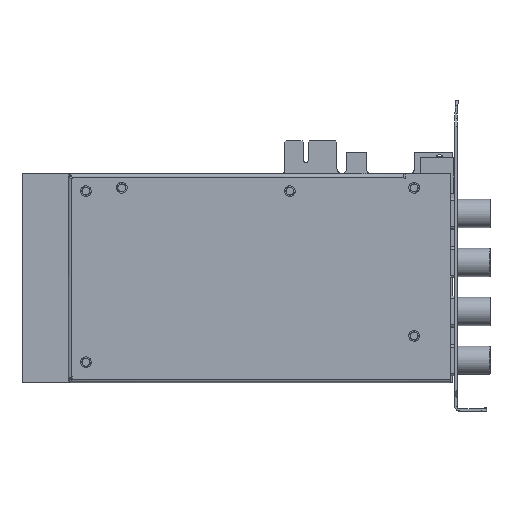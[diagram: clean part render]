
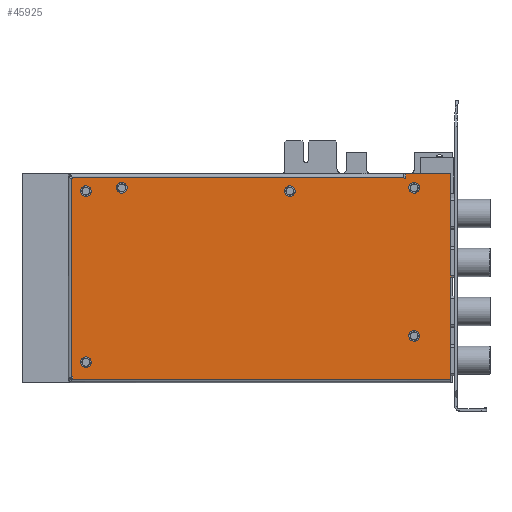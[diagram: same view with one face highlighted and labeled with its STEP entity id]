
A CAD part, top view. The second image highlights one B-rep face of the part: STEP entity #45925.
In plain terms, the highlighted planar face has unit normal (0, 0, 1).
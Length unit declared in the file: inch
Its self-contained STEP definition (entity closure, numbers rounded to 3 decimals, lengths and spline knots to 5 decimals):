
#39301=DIRECTION('',(-1.,0.,0.));
#39302=VECTOR('',#39301,5.075);
#39303=CARTESIAN_POINT('',(-0.75053,-0.3815,0.551));
#39304=LINE('',#39303,#39302);
#39414=DIRECTION('',(0.,-1.,0.));
#39415=VECTOR('',#39414,3.04);
#39416=CARTESIAN_POINT('',(-5.84447,-0.4015,0.551));
#39417=LINE('',#39416,#39415);
#39418=DIRECTION('',(-1.,0.,0.));
#39419=VECTOR('',#39418,0.01894);
#39420=CARTESIAN_POINT('',(-5.82553,-0.4015,0.551));
#39421=LINE('',#39420,#39419);
#39422=DIRECTION('',(0.,-1.,0.));
#39423=VECTOR('',#39422,0.02);
#39424=CARTESIAN_POINT('',(-5.82553,-0.3815,0.551));
#39425=LINE('',#39424,#39423);
#39426=CARTESIAN_POINT('',(-0.73303,-0.3815,0.551));
#39427=DIRECTION('',(0.,0.,-1.));
#39428=DIRECTION('',(1.,0.,0.));
#39429=AXIS2_PLACEMENT_3D('',#39426,#39427,#39428);
#39431=DIRECTION('',(0.,-1.,0.));
#39432=VECTOR('',#39431,0.05);
#39433=CARTESIAN_POINT('',(-0.71553,-0.3315,0.551));
#39434=LINE('',#39433,#39432);
#39435=DIRECTION('',(-1.,0.,0.));
#39436=VECTOR('',#39435,0.69);
#39437=CARTESIAN_POINT('',(-0.02553,-0.3315,0.551));
#39438=LINE('',#39437,#39436);
#39439=DIRECTION('',(0.,1.,0.));
#39440=VECTOR('',#39439,3.07);
#39441=CARTESIAN_POINT('',(-0.02553,-3.4015,0.551));
#39442=LINE('',#39441,#39440);
#39443=DIRECTION('',(0.,1.,0.));
#39444=VECTOR('',#39443,0.07947);
#39445=CARTESIAN_POINT('',(-0.02553,-3.48097,0.551));
#39446=LINE('',#39445,#39444);
#39447=DIRECTION('',(1.,0.,0.));
#39448=VECTOR('',#39447,5.8);
#39449=CARTESIAN_POINT('',(-5.82553,-3.48097,0.551));
#39450=LINE('',#39449,#39448);
#39451=DIRECTION('',(0.,-1.,0.));
#39452=VECTOR('',#39451,0.03947);
#39453=CARTESIAN_POINT('',(-5.82553,-3.4415,0.551));
#39454=LINE('',#39453,#39452);
#39455=DIRECTION('',(1.,0.,0.));
#39456=VECTOR('',#39455,0.01894);
#39457=CARTESIAN_POINT('',(-5.84447,-3.4415,0.551));
#39458=LINE('',#39457,#39456);
#39459=CARTESIAN_POINT('',(-5.62,-3.21756,0.551));
#39460=DIRECTION('',(0.,0.,1.));
#39461=DIRECTION('',(0.,1.,0.));
#39462=AXIS2_PLACEMENT_3D('',#39459,#39460,#39461);
#39464=CARTESIAN_POINT('',(-5.62,-3.21756,0.551));
#39465=DIRECTION('',(0.,0.,1.));
#39466=DIRECTION('',(0.,-1.,0.));
#39467=AXIS2_PLACEMENT_3D('',#39464,#39465,#39466);
#39469=CARTESIAN_POINT('',(-0.59,-2.815,0.551));
#39470=DIRECTION('',(0.,0.,1.));
#39471=DIRECTION('',(0.,1.,0.));
#39472=AXIS2_PLACEMENT_3D('',#39469,#39470,#39471);
#39474=CARTESIAN_POINT('',(-0.59,-2.815,0.551));
#39475=DIRECTION('',(0.,0.,1.));
#39476=DIRECTION('',(0.,-1.,0.));
#39477=AXIS2_PLACEMENT_3D('',#39474,#39475,#39476);
#39479=CARTESIAN_POINT('',(-0.59,-0.5455,0.551));
#39480=DIRECTION('',(0.,0.,1.));
#39481=DIRECTION('',(0.,1.,0.));
#39482=AXIS2_PLACEMENT_3D('',#39479,#39480,#39481);
#39484=CARTESIAN_POINT('',(-0.59,-0.5455,0.551));
#39485=DIRECTION('',(0.,0.,1.));
#39486=DIRECTION('',(0.,-1.,0.));
#39487=AXIS2_PLACEMENT_3D('',#39484,#39485,#39486);
#39489=CARTESIAN_POINT('',(-5.07,-0.5455,0.551));
#39490=DIRECTION('',(0.,0.,1.));
#39491=DIRECTION('',(0.,1.,0.));
#39492=AXIS2_PLACEMENT_3D('',#39489,#39490,#39491);
#39494=CARTESIAN_POINT('',(-5.07,-0.5455,0.551));
#39495=DIRECTION('',(0.,0.,1.));
#39496=DIRECTION('',(0.,-1.,0.));
#39497=AXIS2_PLACEMENT_3D('',#39494,#39495,#39496);
#39499=CARTESIAN_POINT('',(-2.49447,-0.5965,0.551));
#39500=DIRECTION('',(0.,0.,1.));
#39501=DIRECTION('',(0.,1.,0.));
#39502=AXIS2_PLACEMENT_3D('',#39499,#39500,#39501);
#39504=CARTESIAN_POINT('',(-2.49447,-0.5965,0.551));
#39505=DIRECTION('',(0.,0.,1.));
#39506=DIRECTION('',(0.,-1.,0.));
#39507=AXIS2_PLACEMENT_3D('',#39504,#39505,#39506);
#39509=CARTESIAN_POINT('',(-5.62047,-0.5965,0.551));
#39510=DIRECTION('',(0.,0.,1.));
#39511=DIRECTION('',(0.,1.,0.));
#39512=AXIS2_PLACEMENT_3D('',#39509,#39510,#39511);
#39514=CARTESIAN_POINT('',(-5.62047,-0.5965,0.551));
#39515=DIRECTION('',(0.,0.,1.));
#39516=DIRECTION('',(0.,-1.,0.));
#39517=AXIS2_PLACEMENT_3D('',#39514,#39515,#39516);
#43554=CARTESIAN_POINT('',(-0.02553,-3.4015,0.551));
#43556=VERTEX_POINT('',#43554);
#43562=CARTESIAN_POINT('',(-5.82553,-3.4415,0.551));
#43564=VERTEX_POINT('',#43562);
#43566=CARTESIAN_POINT('',(-0.02553,-3.48097,0.551));
#43567=VERTEX_POINT('',#43566);
#43574=CARTESIAN_POINT('',(-0.02553,-0.3315,0.551));
#43575=VERTEX_POINT('',#43574);
#43586=CARTESIAN_POINT('',(-5.82553,-3.48097,0.551));
#43588=VERTEX_POINT('',#43586);
#43595=CARTESIAN_POINT('',(-5.84447,-3.4415,0.551));
#43597=VERTEX_POINT('',#43595);
#44008=CARTESIAN_POINT('',(-5.62,-3.13506,0.551));
#44009=CARTESIAN_POINT('',(-5.62,-3.30006,0.551));
#44010=VERTEX_POINT('',#44008);
#44011=VERTEX_POINT('',#44009);
#44012=CARTESIAN_POINT('',(-0.59,-2.7325,0.551));
#44013=CARTESIAN_POINT('',(-0.59,-2.8975,0.551));
#44014=VERTEX_POINT('',#44012);
#44015=VERTEX_POINT('',#44013);
#44016=CARTESIAN_POINT('',(-0.59,-0.463,0.551));
#44017=CARTESIAN_POINT('',(-0.59,-0.628,0.551));
#44018=VERTEX_POINT('',#44016);
#44019=VERTEX_POINT('',#44017);
#44020=CARTESIAN_POINT('',(-5.07,-0.463,0.551));
#44021=CARTESIAN_POINT('',(-5.07,-0.628,0.551));
#44022=VERTEX_POINT('',#44020);
#44023=VERTEX_POINT('',#44021);
#44044=CARTESIAN_POINT('',(-2.49447,-0.514,0.551));
#44045=CARTESIAN_POINT('',(-2.49447,-0.679,0.551));
#44046=VERTEX_POINT('',#44044);
#44047=VERTEX_POINT('',#44045);
#44056=CARTESIAN_POINT('',(-0.71553,-0.3815,0.551));
#44057=CARTESIAN_POINT('',(-0.75053,-0.3815,0.551));
#44058=VERTEX_POINT('',#44056);
#44059=VERTEX_POINT('',#44057);
#44060=CARTESIAN_POINT('',(-0.71553,-0.3315,0.551));
#44061=VERTEX_POINT('',#44060);
#44068=CARTESIAN_POINT('',(-5.82553,-0.4015,0.551));
#44070=VERTEX_POINT('',#44068);
#44077=CARTESIAN_POINT('',(-5.82553,-0.3815,0.551));
#44079=VERTEX_POINT('',#44077);
#44084=CARTESIAN_POINT('',(-5.84447,-0.4015,0.551));
#44086=VERTEX_POINT('',#44084);
#44306=CARTESIAN_POINT('',(-5.62047,-0.514,0.551));
#44307=CARTESIAN_POINT('',(-5.62047,-0.679,0.551));
#44308=VERTEX_POINT('',#44306);
#44309=VERTEX_POINT('',#44307);
#45862=CARTESIAN_POINT('',(-5.15553,-1.8565,0.551));
#45863=DIRECTION('',(0.,0.,1.));
#45864=DIRECTION('',(0.,-1.,0.));
#45865=AXIS2_PLACEMENT_3D('',#45862,#45863,#45864);
#45866=PLANE('',#45865);
#45868=ORIENTED_EDGE('',*,*,#45867,.F.);
#45869=ORIENTED_EDGE('',*,*,#45532,.F.);
#45870=ORIENTED_EDGE('',*,*,#45544,.F.);
#45871=ORIENTED_EDGE('',*,*,#45741,.F.);
#45872=ORIENTED_EDGE('',*,*,#45853,.F.);
#45874=ORIENTED_EDGE('',*,*,#45873,.F.);
#45876=ORIENTED_EDGE('',*,*,#45875,.F.);
#45878=ORIENTED_EDGE('',*,*,#45877,.F.);
#45880=ORIENTED_EDGE('',*,*,#45879,.F.);
#45882=ORIENTED_EDGE('',*,*,#45881,.F.);
#45884=ORIENTED_EDGE('',*,*,#45883,.F.);
#45886=ORIENTED_EDGE('',*,*,#45885,.F.);
#45887=EDGE_LOOP('',(#45868,#45869,#45870,#45871,#45872,#45874,#45876,#45878,
#45880,#45882,#45884,#45886));
#45888=FACE_OUTER_BOUND('',#45887,.F.);
#45890=ORIENTED_EDGE('',*,*,#45889,.T.);
#45892=ORIENTED_EDGE('',*,*,#45891,.T.);
#45893=EDGE_LOOP('',(#45890,#45892));
#45894=FACE_BOUND('',#45893,.F.);
#45896=ORIENTED_EDGE('',*,*,#45895,.T.);
#45898=ORIENTED_EDGE('',*,*,#45897,.T.);
#45899=EDGE_LOOP('',(#45896,#45898));
#45900=FACE_BOUND('',#45899,.F.);
#45902=ORIENTED_EDGE('',*,*,#45901,.T.);
#45904=ORIENTED_EDGE('',*,*,#45903,.T.);
#45905=EDGE_LOOP('',(#45902,#45904));
#45906=FACE_BOUND('',#45905,.F.);
#45908=ORIENTED_EDGE('',*,*,#45907,.T.);
#45910=ORIENTED_EDGE('',*,*,#45909,.T.);
#45911=EDGE_LOOP('',(#45908,#45910));
#45912=FACE_BOUND('',#45911,.F.);
#45914=ORIENTED_EDGE('',*,*,#45913,.T.);
#45916=ORIENTED_EDGE('',*,*,#45915,.T.);
#45917=EDGE_LOOP('',(#45914,#45916));
#45918=FACE_BOUND('',#45917,.F.);
#45920=ORIENTED_EDGE('',*,*,#45919,.T.);
#45922=ORIENTED_EDGE('',*,*,#45921,.T.);
#45923=EDGE_LOOP('',(#45920,#45922));
#45924=FACE_BOUND('',#45923,.F.);
#45925=ADVANCED_FACE('',(#45888,#45894,#45900,#45906,#45912,#45918,#45924),
#45866,.T.);
#39430=CIRCLE('',#39429,0.0175);
#39463=CIRCLE('',#39462,0.0825);
#39468=CIRCLE('',#39467,0.0825);
#39473=CIRCLE('',#39472,0.0825);
#39478=CIRCLE('',#39477,0.0825);
#39483=CIRCLE('',#39482,0.0825);
#39488=CIRCLE('',#39487,0.0825);
#39493=CIRCLE('',#39492,0.0825);
#39498=CIRCLE('',#39497,0.0825);
#39503=CIRCLE('',#39502,0.0825);
#39508=CIRCLE('',#39507,0.0825);
#39513=CIRCLE('',#39512,0.0825);
#39518=CIRCLE('',#39517,0.0825);
#45532=EDGE_CURVE('',#44070,#44086,#39421,.T.);
#45544=EDGE_CURVE('',#44079,#44070,#39425,.T.);
#45741=EDGE_CURVE('',#44059,#44079,#39304,.T.);
#45853=EDGE_CURVE('',#44058,#44059,#39430,.T.);
#45867=EDGE_CURVE('',#44086,#43597,#39417,.T.);
#45873=EDGE_CURVE('',#44061,#44058,#39434,.T.);
#45875=EDGE_CURVE('',#43575,#44061,#39438,.T.);
#45877=EDGE_CURVE('',#43556,#43575,#39442,.T.);
#45879=EDGE_CURVE('',#43567,#43556,#39446,.T.);
#45881=EDGE_CURVE('',#43588,#43567,#39450,.T.);
#45883=EDGE_CURVE('',#43564,#43588,#39454,.T.);
#45885=EDGE_CURVE('',#43597,#43564,#39458,.T.);
#45889=EDGE_CURVE('',#44010,#44011,#39463,.T.);
#45891=EDGE_CURVE('',#44011,#44010,#39468,.T.);
#45895=EDGE_CURVE('',#44014,#44015,#39473,.T.);
#45897=EDGE_CURVE('',#44015,#44014,#39478,.T.);
#45901=EDGE_CURVE('',#44018,#44019,#39483,.T.);
#45903=EDGE_CURVE('',#44019,#44018,#39488,.T.);
#45907=EDGE_CURVE('',#44022,#44023,#39493,.T.);
#45909=EDGE_CURVE('',#44023,#44022,#39498,.T.);
#45913=EDGE_CURVE('',#44046,#44047,#39503,.T.);
#45915=EDGE_CURVE('',#44047,#44046,#39508,.T.);
#45919=EDGE_CURVE('',#44308,#44309,#39513,.T.);
#45921=EDGE_CURVE('',#44309,#44308,#39518,.T.);
